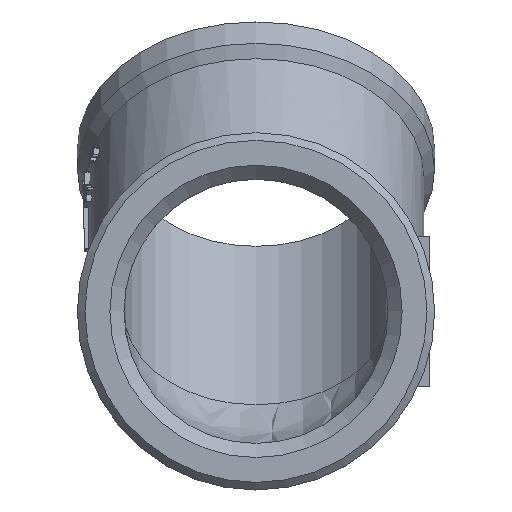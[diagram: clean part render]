
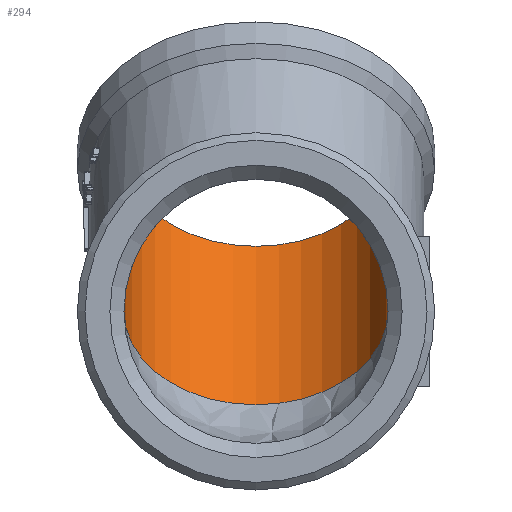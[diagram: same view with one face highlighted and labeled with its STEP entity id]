
A CAD part, front view. The second image highlights one B-rep face of the part: STEP entity #294.
In plain terms, the highlighted cylindrical face has radius 12.2 mm (diameter 24.4 mm), a full revolution.
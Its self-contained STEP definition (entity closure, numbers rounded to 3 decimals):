
#294=ADVANCED_FACE('',(#1960,#1962),#1964,.F.);
#1960=FACE_BOUND('',#1961,.T.);
#1961=EDGE_LOOP('',(#3769,#3770));
#1962=FACE_OUTER_BOUND('',#1963,.T.);
#1963=EDGE_LOOP('',(#3771));
#1964=CYLINDRICAL_SURFACE('',#1965,12.2);
#1965=AXIS2_PLACEMENT_3D('',#1966,#1967,#1968);
#1966=CARTESIAN_POINT('',(0.,0.,0.));
#1967=DIRECTION('',(0.,0.707,0.707));
#1968=DIRECTION('',(-1.,0.,0.));
#3769=ORIENTED_EDGE('',*,*,#4464,.F.);
#3770=ORIENTED_EDGE('',*,*,#4465,.T.);
#3771=ORIENTED_EDGE('',*,*,#4462,.F.);
#4462=EDGE_CURVE('',#5618,#5618,#5619,.F.);
#4464=EDGE_CURVE('',#5621,#5620,#5623,.F.);
#4465=EDGE_CURVE('',#5621,#5620,#5624,.F.);
#5618=VERTEX_POINT('',#10946);
#5619=CIRCLE('',#10947,12.2);
#5620=VERTEX_POINT('',#10951);
#5621=VERTEX_POINT('',#10952);
#5623=(BOUNDED_CURVE()B_SPLINE_CURVE(3,
(#10957,#10958,#10959,#10960),
.UNSPECIFIED.,.F.,.F.)B_SPLINE_CURVE_WITH_KNOTS((4,4),
(0.,1.),
.UNSPECIFIED.)CURVE()GEOMETRIC_REPRESENTATION_ITEM()RATIONAL_B_SPLINE_CURVE((1.,
0.333,0.333,1.))REPRESENTATION_ITEM(''));
#5624=CIRCLE('',#10961,12.2);
#10946=CARTESIAN_POINT('',(-12.2,14.637,14.637));
#10947=AXIS2_PLACEMENT_3D('',#10948,#10949,#10950);
#10948=CARTESIAN_POINT('',(0.,14.637,14.637));
#10949=DIRECTION('',(0.,0.707,0.707));
#10950=DIRECTION('',(-1.,0.,0.));
#10951=CARTESIAN_POINT('',(12.2,0.,0.));
#10952=CARTESIAN_POINT('',(-12.2,0.,0.));
#10957=CARTESIAN_POINT('',(12.2,0.,0.));
#10958=CARTESIAN_POINT('',(12.2,-10.107,24.4));
#10959=CARTESIAN_POINT('',(-12.2,-10.107,24.4));
#10960=CARTESIAN_POINT('',(-12.2,0.,0.));
#10961=AXIS2_PLACEMENT_3D('',#10962,#10963,#10964);
#10962=CARTESIAN_POINT('',(0.,0.,0.));
#10963=DIRECTION('',(0.,0.707,0.707));
#10964=DIRECTION('',(1.,0.,0.));
